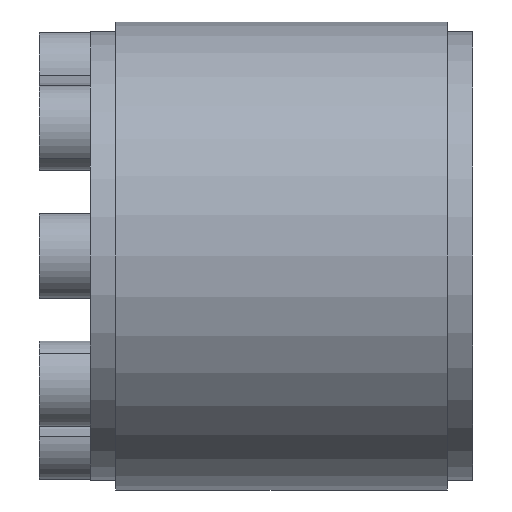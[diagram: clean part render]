
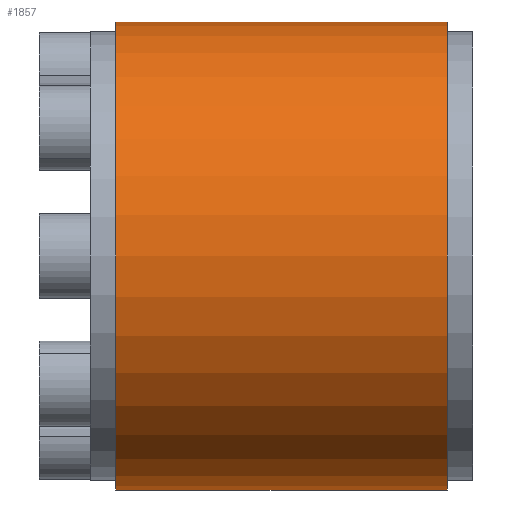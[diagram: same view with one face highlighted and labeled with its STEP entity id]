
A CAD part, front view. The second image highlights one B-rep face of the part: STEP entity #1857.
In plain terms, the highlighted cylindrical face has radius 27.5 mm (diameter 55 mm), a partial arc.
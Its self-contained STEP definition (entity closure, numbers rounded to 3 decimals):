
#1436 = VERTEX_POINT ( 'NONE', #4728 ) ;
#1437 = VERTEX_POINT ( 'NONE', #4727 ) ;
#1439 = EDGE_CURVE ( 'NONE', #1437, #1440, #4726, .T. ) ;
#1440 = VERTEX_POINT ( 'NONE', #4681 ) ;
#1443 = VERTEX_POINT ( 'NONE', #4675 ) ;
#1445 = EDGE_CURVE ( 'NONE', #1436, #1443, #4674, .T. ) ;
#1756 = ORIENTED_EDGE ( 'NONE', *, *, #1757, .F. ) ;
#1757 = EDGE_CURVE ( 'NONE', #1440, #1443, #5286, .T. ) ;
#1825 = EDGE_CURVE ( 'NONE', #1437, #1436, #5320, .T. ) ;
#1828 = ORIENTED_EDGE ( 'NONE', *, *, #1439, .F. ) ;
#1829 = ORIENTED_EDGE ( 'NONE', *, *, #1825, .T. ) ;
#1857 = ADVANCED_FACE ( 'NONE', ( #5389 ), #5388, .T. ) ;
#1860 = ORIENTED_EDGE ( 'NONE', *, *, #1445, .T. ) ;
#1864 = EDGE_LOOP ( 'NONE', ( #1828, #1829, #1860, #1756 ) ) ;
#4671 = DIRECTION ( 'NONE',  ( -1., 0., 0. ) ) ;
#4672 = VECTOR ( 'NONE', #4671, 1000. ) ;
#4673 = CARTESIAN_POINT ( 'NONE',  ( 0., 0., 27.5 ) ) ;
#4674 = LINE ( 'NONE', #4673, #4672 ) ;
#4675 = CARTESIAN_POINT ( 'NONE',  ( 3., 0., 27.5 ) ) ;
#4681 = CARTESIAN_POINT ( 'NONE',  ( 3., 0., -27.5 ) ) ;
#4723 = DIRECTION ( 'NONE',  ( -1., 0., 0. ) ) ;
#4724 = VECTOR ( 'NONE', #4723, 1000. ) ;
#4725 = CARTESIAN_POINT ( 'NONE',  ( 0., 0., -27.5 ) ) ;
#4726 = LINE ( 'NONE', #4725, #4724 ) ;
#4727 = CARTESIAN_POINT ( 'NONE',  ( 42., 0., -27.5 ) ) ;
#4728 = CARTESIAN_POINT ( 'NONE',  ( 42., 0., 27.5 ) ) ;
#5283 = DIRECTION ( 'NONE',  ( 0., 0., 1. ) ) ;
#5284 = DIRECTION ( 'NONE',  ( -1., 0., 0. ) ) ;
#5285 = AXIS2_PLACEMENT_3D ( 'NONE', #5289, #5284, #5283 ) ;
#5286 = CIRCLE ( 'NONE', #5285, 27.5 ) ;
#5289 = CARTESIAN_POINT ( 'NONE',  ( 3., 0., 0. ) ) ;
#5316 = DIRECTION ( 'NONE',  ( 0., 0., 1. ) ) ;
#5317 = DIRECTION ( 'NONE',  ( -1., 0., 0. ) ) ;
#5318 = CARTESIAN_POINT ( 'NONE',  ( 42., 0., 0. ) ) ;
#5319 = AXIS2_PLACEMENT_3D ( 'NONE', #5318, #5317, #5316 ) ;
#5320 = CIRCLE ( 'NONE', #5319, 27.5 ) ;
#5383 = DIRECTION ( 'NONE',  ( 0., 0., 1. ) ) ;
#5384 = DIRECTION ( 'NONE',  ( -1., 0., 0. ) ) ;
#5385 = AXIS2_PLACEMENT_3D ( 'NONE', #5393, #5384, #5383 ) ;
#5388 = CYLINDRICAL_SURFACE ( 'NONE', #5385, 27.5 ) ;
#5389 = FACE_OUTER_BOUND ( 'NONE', #1864, .T. ) ;
#5393 = CARTESIAN_POINT ( 'NONE',  ( 0., 0., 0. ) ) ;
